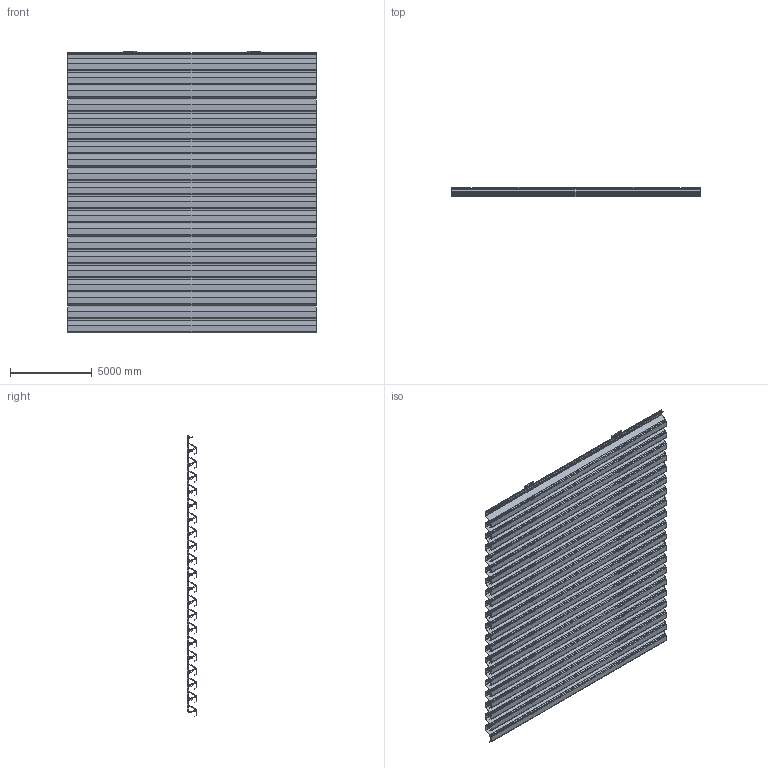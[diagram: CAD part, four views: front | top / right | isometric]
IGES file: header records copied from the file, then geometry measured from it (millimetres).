
Global section: file name: 3D_L_033-08; native system: AutoCAD 2023 - English; preprocessor: Autodesk Translation Framework DWG producer (atf_dwg_producer); organization: unknown; date: 20260202.112510; units: inch
Bounding box: 15240 x 568.96 x 17239.02 mm (x, y, z)
Volume: 18470929506.6 mm3; surface area: 1106558790.5 mm2
Topology: 20 solids, 20 shells, 2440 faces, 7640 edges, 4960 vertices
Faces by surface type: bspline 2440
